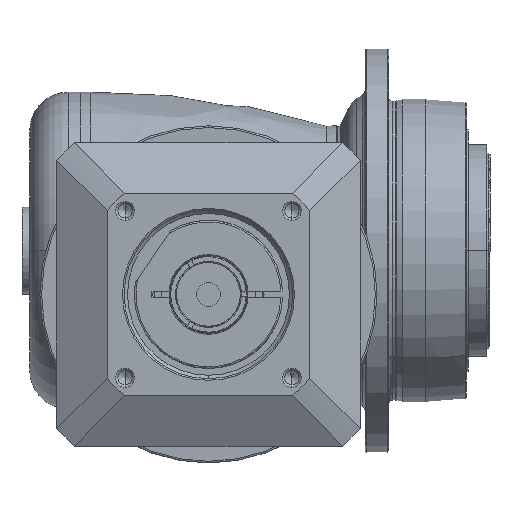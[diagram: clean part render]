
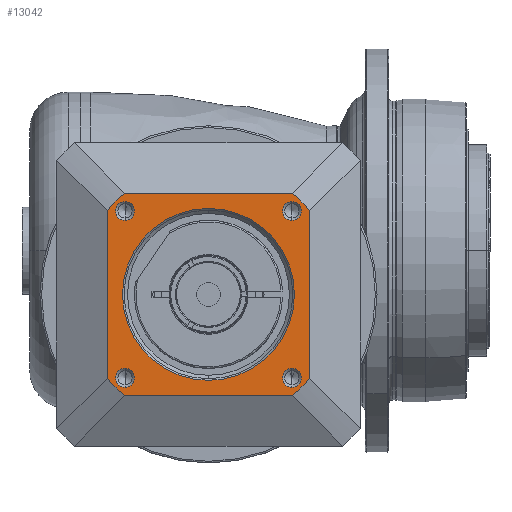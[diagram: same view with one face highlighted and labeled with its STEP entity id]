
A CAD part, front view. The second image highlights one B-rep face of the part: STEP entity #13042.
In plain terms, the highlighted planar face has unit normal (0, -1, 0) as drawn and (0, 0, 1) by its records, which use the part's own axes.
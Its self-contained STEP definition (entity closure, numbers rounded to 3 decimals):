
#11749=CARTESIAN_POINT('',(0.,0.,
35.));
#11750=DIRECTION('',(0.,0.,-1.));
#11751=DIRECTION('',(0.,-1.,0.));
#11752=AXIS2_PLACEMENT_3D('',#11749,#11750,#11751);
#11754=CARTESIAN_POINT('',(0.,0.,35.));
#11755=DIRECTION('',(0.,0.,-1.));
#11756=DIRECTION('',(0.,1.,0.));
#11757=AXIS2_PLACEMENT_3D('',#11754,#11755,#11756);
#11759=DIRECTION('',(1.,0.,0.));
#11760=VECTOR('',#11759,49.84);
#11761=CARTESIAN_POINT('',(-24.92,30.,35.));
#11762=LINE('',#11761,#11760);
#11763=CARTESIAN_POINT('',(0.,0.,35.));
#11764=DIRECTION('',(0.,0.,1.));
#11765=DIRECTION('',(0.769,0.639,0.));
#11766=AXIS2_PLACEMENT_3D('',#11763,#11764,#11765);
#11768=DIRECTION('',(0.,1.,0.));
#11769=VECTOR('',#11768,49.84);
#11770=CARTESIAN_POINT('',(30.,-24.92,35.));
#11771=LINE('',#11770,#11769);
#11772=DIRECTION('',(1.,0.,0.));
#11773=VECTOR('',#11772,49.84);
#11774=CARTESIAN_POINT('',(-24.92,-30.,35.));
#11775=LINE('',#11774,#11773);
#11776=CARTESIAN_POINT('',(0.,0.,35.));
#11777=DIRECTION('',(0.,0.,1.));
#11778=DIRECTION('',(-0.769,-0.639,0.));
#11779=AXIS2_PLACEMENT_3D('',#11776,#11777,#11778);
#11781=DIRECTION('',(0.,1.,0.));
#11782=VECTOR('',#11781,49.84);
#11783=CARTESIAN_POINT('',(-30.,-24.92,35.));
#11784=LINE('',#11783,#11782);
#11799=CARTESIAN_POINT('',(0.,0.,35.));
#11800=DIRECTION('',(0.,0.,1.));
#11801=DIRECTION('',(-0.639,0.769,0.));
#11802=AXIS2_PLACEMENT_3D('',#11799,#11800,#11801);
#11809=CARTESIAN_POINT('',(0.,0.,35.));
#11810=DIRECTION('',(0.,0.,1.));
#11811=DIRECTION('',(0.639,-0.769,0.));
#11812=AXIS2_PLACEMENT_3D('',#11809,#11810,#11811);
#11826=CARTESIAN_POINT('',(-24.92,30.,35.));
#11918=CARTESIAN_POINT('',(30.,-24.92,35.));
#11946=CARTESIAN_POINT('',(24.92,-30.,35.));
#11986=CARTESIAN_POINT('',(-30.,24.92,35.));
#11995=CARTESIAN_POINT('',(-24.749,24.749,35.));
#11996=DIRECTION('',(0.,0.,1.));
#11997=DIRECTION('',(-1.,0.,0.));
#11998=AXIS2_PLACEMENT_3D('',#11995,#11996,#11997);
#12013=CARTESIAN_POINT('',(-24.749,24.749,35.));
#12014=DIRECTION('',(0.,0.,1.));
#12015=DIRECTION('',(1.,0.,0.));
#12016=AXIS2_PLACEMENT_3D('',#12013,#12014,#12015);
#12049=CARTESIAN_POINT('',(24.749,24.749,35.));
#12050=DIRECTION('',(0.,0.,1.));
#12051=DIRECTION('',(-1.,0.,0.));
#12052=AXIS2_PLACEMENT_3D('',#12049,#12050,#12051);
#12067=CARTESIAN_POINT('',(24.749,24.749,35.));
#12068=DIRECTION('',(0.,0.,1.));
#12069=DIRECTION('',(1.,0.,0.));
#12070=AXIS2_PLACEMENT_3D('',#12067,#12068,#12069);
#12103=CARTESIAN_POINT('',(24.749,-24.749,35.));
#12104=DIRECTION('',(0.,0.,1.));
#12105=DIRECTION('',(-1.,0.,0.));
#12106=AXIS2_PLACEMENT_3D('',#12103,#12104,#12105);
#12121=CARTESIAN_POINT('',(24.749,-24.749,35.));
#12122=DIRECTION('',(0.,0.,1.));
#12123=DIRECTION('',(1.,0.,0.));
#12124=AXIS2_PLACEMENT_3D('',#12121,#12122,#12123);
#12157=CARTESIAN_POINT('',(-24.749,-24.749,35.));
#12158=DIRECTION('',(0.,0.,1.));
#12159=DIRECTION('',(-1.,0.,0.));
#12160=AXIS2_PLACEMENT_3D('',#12157,#12158,#12159);
#12175=CARTESIAN_POINT('',(-24.749,-24.749,35.));
#12176=DIRECTION('',(0.,0.,1.));
#12177=DIRECTION('',(1.,0.,0.));
#12178=AXIS2_PLACEMENT_3D('',#12175,#12176,#12177);
#12265=CARTESIAN_POINT('',(-27.549,24.749,35.));
#12266=CARTESIAN_POINT('',(-21.949,24.749,35.));
#12267=VERTEX_POINT('',#12265);
#12268=VERTEX_POINT('',#12266);
#12291=CARTESIAN_POINT('',(-30.,-24.92,35.));
#12292=CARTESIAN_POINT('',(-24.92,-30.,35.));
#12293=VERTEX_POINT('',#12291);
#12294=VERTEX_POINT('',#12292);
#12295=CARTESIAN_POINT('',(30.,24.92,35.));
#12296=CARTESIAN_POINT('',(24.92,30.,35.));
#12297=VERTEX_POINT('',#12295);
#12298=VERTEX_POINT('',#12296);
#12307=VERTEX_POINT('',#11826);
#12310=VERTEX_POINT('',#11918);
#12311=VERTEX_POINT('',#11946);
#12314=VERTEX_POINT('',#11986);
#12323=CARTESIAN_POINT('',(27.549,24.749,35.));
#12324=CARTESIAN_POINT('',(21.949,24.749,35.));
#12325=VERTEX_POINT('',#12323);
#12326=VERTEX_POINT('',#12324);
#12331=CARTESIAN_POINT('',(27.549,-24.749,35.));
#12332=CARTESIAN_POINT('',(21.949,-24.749,35.));
#12333=VERTEX_POINT('',#12331);
#12334=VERTEX_POINT('',#12332);
#12339=CARTESIAN_POINT('',(-21.949,-24.749,35.));
#12340=CARTESIAN_POINT('',(-27.549,-24.749,35.));
#12341=VERTEX_POINT('',#12339);
#12342=VERTEX_POINT('',#12340);
#12347=CARTESIAN_POINT('',(0.,-25.5,35.));
#12348=CARTESIAN_POINT('',(0.,25.5,35.));
#12349=VERTEX_POINT('',#12347);
#12350=VERTEX_POINT('',#12348);
#12990=CARTESIAN_POINT('',(0.,0.,35.));
#12991=DIRECTION('',(0.,0.,1.));
#12992=DIRECTION('',(1.,0.,0.));
#12993=AXIS2_PLACEMENT_3D('',#12990,#12991,#12992);
#12994=PLANE('',#12993);
#12996=ORIENTED_EDGE('',*,*,#12995,.F.);
#12998=ORIENTED_EDGE('',*,*,#12997,.T.);
#13000=ORIENTED_EDGE('',*,*,#12999,.F.);
#13002=ORIENTED_EDGE('',*,*,#13001,.F.);
#13004=ORIENTED_EDGE('',*,*,#13003,.F.);
#13006=ORIENTED_EDGE('',*,*,#13005,.F.);
#13008=ORIENTED_EDGE('',*,*,#13007,.F.);
#13010=ORIENTED_EDGE('',*,*,#13009,.T.);
#13011=EDGE_LOOP('',(#12996,#12998,#13000,#13002,#13004,#13006,#13008,#13010));
#13012=FACE_OUTER_BOUND('',#13011,.F.);
#13013=ORIENTED_EDGE('',*,*,#12980,.F.);
#13015=ORIENTED_EDGE('',*,*,#13014,.F.);
#13016=EDGE_LOOP('',(#13013,#13015));
#13017=FACE_BOUND('',#13016,.F.);
#13019=ORIENTED_EDGE('',*,*,#13018,.T.);
#13021=ORIENTED_EDGE('',*,*,#13020,.T.);
#13022=EDGE_LOOP('',(#13019,#13021));
#13023=FACE_BOUND('',#13022,.F.);
#13025=ORIENTED_EDGE('',*,*,#13024,.T.);
#13027=ORIENTED_EDGE('',*,*,#13026,.T.);
#13028=EDGE_LOOP('',(#13025,#13027));
#13029=FACE_BOUND('',#13028,.F.);
#13031=ORIENTED_EDGE('',*,*,#13030,.T.);
#13033=ORIENTED_EDGE('',*,*,#13032,.T.);
#13034=EDGE_LOOP('',(#13031,#13033));
#13035=FACE_BOUND('',#13034,.F.);
#13037=ORIENTED_EDGE('',*,*,#13036,.T.);
#13039=ORIENTED_EDGE('',*,*,#13038,.T.);
#13040=EDGE_LOOP('',(#13037,#13039));
#13041=FACE_BOUND('',#13040,.F.);
#13042=ADVANCED_FACE('',(#13012,#13017,#13023,#13029,#13035,#13041),#12994,.T.);
#11753=CIRCLE('',#11752,25.5);
#11758=CIRCLE('',#11757,25.5);
#11767=CIRCLE('',#11766,39.);
#11780=CIRCLE('',#11779,39.);
#11803=CIRCLE('',#11802,39.);
#11813=CIRCLE('',#11812,39.);
#11999=CIRCLE('',#11998,2.8);
#12017=CIRCLE('',#12016,2.8);
#12053=CIRCLE('',#12052,2.8);
#12071=CIRCLE('',#12070,2.8);
#12107=CIRCLE('',#12106,2.8);
#12125=CIRCLE('',#12124,2.8);
#12161=CIRCLE('',#12160,2.8);
#12179=CIRCLE('',#12178,2.8);
#12980=EDGE_CURVE('',#12349,#12350,#11753,.T.);
#12995=EDGE_CURVE('',#12307,#12314,#11803,.T.);
#12997=EDGE_CURVE('',#12307,#12298,#11762,.T.);
#12999=EDGE_CURVE('',#12297,#12298,#11767,.T.);
#13001=EDGE_CURVE('',#12310,#12297,#11771,.T.);
#13003=EDGE_CURVE('',#12311,#12310,#11813,.T.);
#13005=EDGE_CURVE('',#12294,#12311,#11775,.T.);
#13007=EDGE_CURVE('',#12293,#12294,#11780,.T.);
#13009=EDGE_CURVE('',#12293,#12314,#11784,.T.);
#13014=EDGE_CURVE('',#12350,#12349,#11758,.T.);
#13018=EDGE_CURVE('',#12267,#12268,#11999,.T.);
#13020=EDGE_CURVE('',#12268,#12267,#12017,.T.);
#13024=EDGE_CURVE('',#12326,#12325,#12053,.T.);
#13026=EDGE_CURVE('',#12325,#12326,#12071,.T.);
#13030=EDGE_CURVE('',#12334,#12333,#12107,.T.);
#13032=EDGE_CURVE('',#12333,#12334,#12125,.T.);
#13036=EDGE_CURVE('',#12342,#12341,#12161,.T.);
#13038=EDGE_CURVE('',#12341,#12342,#12179,.T.);
